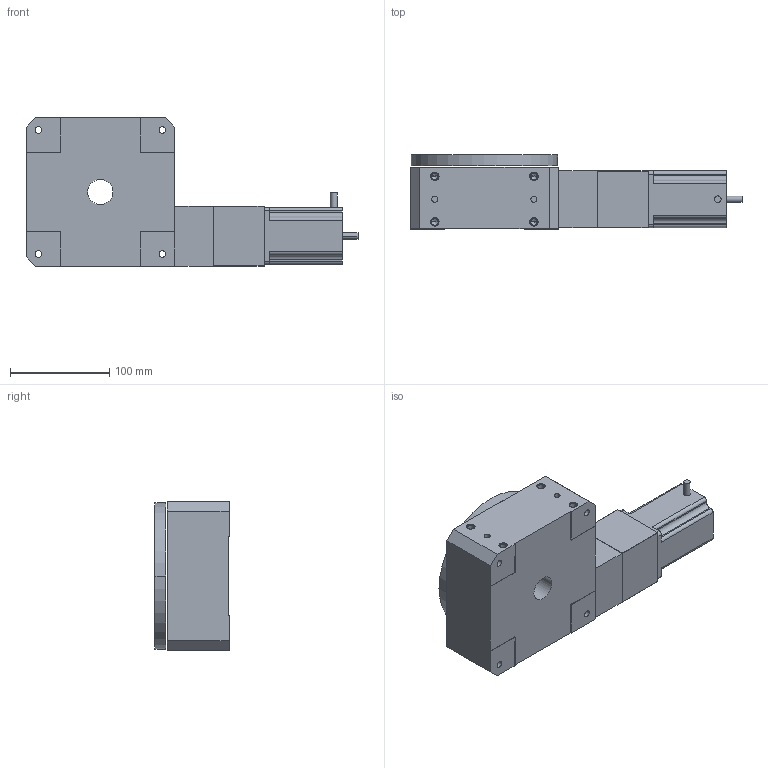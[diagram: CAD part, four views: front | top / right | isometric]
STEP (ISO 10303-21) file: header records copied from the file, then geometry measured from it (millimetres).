
FILE_DESCRIPTION((''),'2;1');
FILE_NAME('R150M7MP3E0_ASM','2009-07-02T',('FK20128'),(''),'PRO/ENGINEER BY PARAMETRIC TECHNOLOGY CORPORATION, 2006200','PRO/ENGINEER BY PARAMETRIC TECHNOLOGY CORPORATION, 2006200','');
FILE_SCHEMA(('CONFIG_CONTROL_DESIGN'));
Length unit declared in the file: millimetre
Products named in the file (4): R150M; R150M-M22; RXXXM-HV233; R150M7MP3E0_ASM
Assembly tree (3 placements, depth 2):
  R150M7MP3E0_ASM
    R150M
    R150M-M22
    RXXXM-HV233
Bounding box: 334.86 x 74.83 x 150 mm (x, y, z)
Volume: 2007256.4 mm3; surface area: 195951.3 mm2
Topology: 4 solids, 20 shells, 279 faces, 693 edges, 456 vertices
Faces by surface type: cylinder 158, plane 95, cone 26
Entity records: 8510 total; most frequent: DIRECTION 1613, CARTESIAN_POINT 1421, ORIENTED_EDGE 1290, EDGE_CURVE 677, AXIS2_PLACEMENT_3D 648, VERTEX_POINT 456, EDGE_LOOP 367, CIRCLE 360
